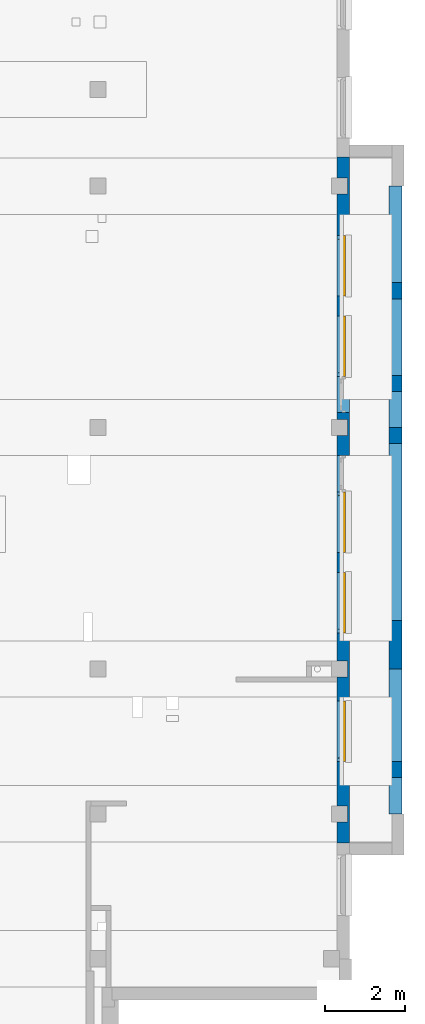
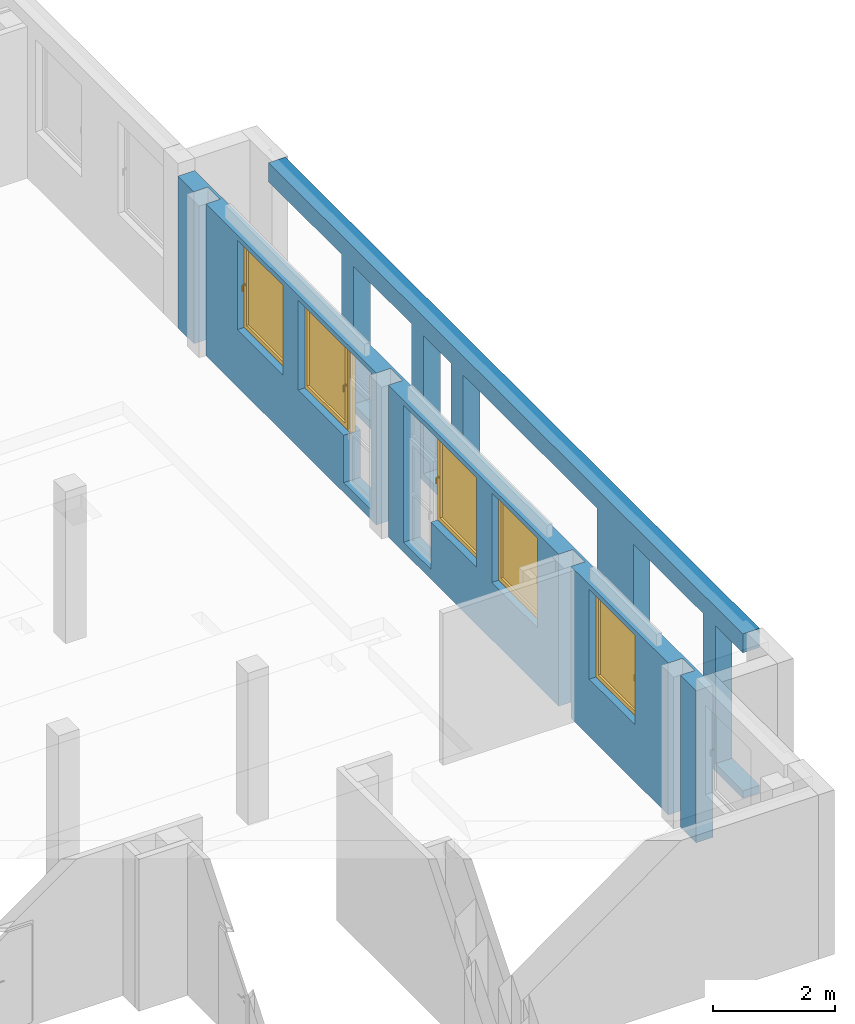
# One storey, part 6 of 27: 5 windows, 2 walls, 13 openings.
"""IFC4 building model written with IfcOpenShell, lengths in metres."""

from ifc_helpers import new_model, entity, si_unit, converted_unit, derived_unit, frame, frame_2d, origin, origin_with_axes, place, context, subcontext, project, spatial, polyline, rectangle, outline, extrude, closed_shell, open_shell, surface_model, source, transform, mapped, material, layer, layer_set, layer_usage, element, fill, save


model = new_model("IFC4")

# Units and contexts
model_context = context("Model", 3, precision=1e-05, world=origin())
body_context = subcontext(model_context, "Body", "Model", "MODEL_VIEW")
ifc_project = project(units=[si_unit("LENGTHUNIT", "METRE"), si_unit("AREAUNIT", "SQUARE_METRE"), si_unit("VOLUMEUNIT", "CUBIC_METRE"), si_unit("MASSUNIT", "GRAM", prefix="KILO"), converted_unit("PLANEANGLEUNIT", "DEGREE", entity("IfcPlaneAngleMeasure", 0.0174532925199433), si_unit("PLANEANGLEUNIT", "RADIAN"), dimensions=[0, 0, 0, 0, 0, 0, 0]), derived_unit("THERMALTRANSMITTANCEUNIT", [(si_unit("POWERUNIT", "WATT"), 1), (si_unit("THERMODYNAMICTEMPERATUREUNIT", "KELVIN"), -1), (si_unit("LENGTHUNIT", "METRE"), -2)]), derived_unit("VOLUMETRICFLOWRATEUNIT", [(si_unit("LENGTHUNIT", "METRE"), 3), (converted_unit("TIMEUNIT", "hour", entity("IfcTimeMeasure", 3600.0), si_unit("TIMEUNIT", "SECOND"), dimensions=[0, 0, 1, 0, 0, 0, 0]), -1), (si_unit("LENGTHUNIT", "METRE"), -1)])], contexts=[model_context])

# Site, building, storey
site_placement = place(None, origin())
site = spatial("IfcSite", under=ifc_project, at=site_placement, Name="3. ASŘ", CompositionType="ELEMENT")
building_placement = place(site_placement, origin())
building = spatial("IfcBuilding", under=site, at=building_placement, Name="Pavilon C", CompositionType="ELEMENT")
storey_placement = place(building_placement, frame((0.0, 0.0, 10.5)))
storey = spatial("IfcBuildingStorey", under=building, at=storey_placement, Name="Půdorys 4.NP", CompositionType="ELEMENT", Elevation=10.5)

# Wall, openings, windows
ifc_material_1 = material(Name="PLYNOSILIKÁT")
ifc_layer_1 = layer(ifc_material_1, 0.32)
ifc_layer_set_1 = layer_set([ifc_layer_1])
ifc_layer_usage_1 = layer_usage(ifc_layer_set_1, "AXIS2", "POSITIVE", 0.0)
wall_1_placement = place(storey_placement, frame((50.2, 2.88, -0.1), z_axis=(0.0, 0.0, 1.0), x_axis=(0.0, 1.0, 0.0)))
wall_1 = element("IfcWall", 1, at=wall_1_placement, inside=storey, material=ifc_layer_usage_1, Name="PLYNOSILIKÁT", context=body_context, shape_type="SweptSolid", body=[
    extrude(outline(polyline([(0.0, -0.32), (17.04, -0.32), (17.04, 0.0), (16.52, 0.0), (16.52, -0.27), (16.12, -0.27), (16.12, 0.0), (10.52, 0.0), (10.52, -0.27), (10.12, -0.27), (10.12, 0.0), (4.52, 0.0), (4.52, -0.27), (4.12, -0.27), (4.12, 0.0), (0.919999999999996, 0.0), (0.919999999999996, -0.27), (0.519999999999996, -0.27), (0.519999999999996, 0.0), (0.0, 0.0), (0.0, -0.32)])), frame((0.0, 0.32, 0.0), z_axis=(0.0, 0.0, 1.0), x_axis=(1.0, 0.0, 0.0)), (0.0, 0.0, 1.0), 3.05),
])
opening_1_placement = place(wall_1_placement, frame((2.02, 0.0, 1.15), z_axis=(0.0, 1.0, 0.0), x_axis=(0.0, 0.0, 1.0)))
opening_1 = element("IfcOpeningElement", 2, at=opening_1_placement, cuts=wall_1, Name="Okenní otvor", ObjectType="Opening", context=body_context, shape_type="SweptSolid", body=[
    extrude(outline(polyline([(0.0, 1.5), (1.8, 1.5), (1.8, 0.0), (0.0, 0.0), (0.0, 1.5)])), origin_with_axes(), (0.0, 0.0, 1.0), 0.32),
])
opening_2_placement = place(wall_1_placement, frame((13.59, 0.0, 1.15), z_axis=(0.0, 1.0, 0.0), x_axis=(0.0, 0.0, 1.0)))
opening_2 = element("IfcOpeningElement", 3, at=opening_2_placement, cuts=wall_1, Name="Okenní otvor", ObjectType="Opening", context=body_context, shape_type="SweptSolid", body=[
    extrude(outline(polyline([(0.0, 1.5), (1.8, 1.5), (1.8, 0.0), (0.0, 0.0), (0.0, 1.5)])), origin_with_axes(), (0.0, 0.0, 1.0), 0.32),
])
opening_3_placement = place(wall_1_placement, frame((10.69, 0.0, 0.2), z_axis=(0.0, 1.0, 0.0), x_axis=(0.0, 0.0, 1.0)))
element("IfcOpeningElement", 4, at=opening_3_placement, cuts=wall_1, Name="Dveřní otvor", ObjectType="Opening", context=body_context, shape_type="SweptSolid", body=[
    extrude(outline(polyline([(0.0, 0.9), (2.75, 0.9), (2.75, 0.0), (0.0, 0.0), (0.0, 0.9)])), origin_with_axes(), (0.0, 0.0, 1.0), 0.32),
])
opening_4_placement = place(wall_1_placement, frame((11.59, 0.0, 1.15), z_axis=(0.0, 1.0, 0.0), x_axis=(0.0, 0.0, 1.0)))
opening_4 = element("IfcOpeningElement", 5, at=opening_4_placement, cuts=wall_1, Name="Okenní otvor", ObjectType="Opening", context=body_context, shape_type="SweptSolid", body=[
    extrude(outline(polyline([(0.0, 1.5), (1.8, 1.5), (1.8, 0.0), (0.0, 0.0), (0.0, 1.5)])), origin_with_axes(), (0.0, 0.0, 1.0), 0.32),
])
opening_5_placement = place(wall_1_placement, frame((7.21999999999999, 0.0, 1.15), z_axis=(0.0, 1.0, 0.0), x_axis=(0.0, 0.0, 1.0)))
opening_5 = element("IfcOpeningElement", 6, at=opening_5_placement, cuts=wall_1, Name="Okenní otvor", ObjectType="Opening", context=body_context, shape_type="SweptSolid", body=[
    extrude(outline(polyline([(0.0, 1.5), (1.8, 1.5), (1.8, 0.0), (0.0, 0.0), (0.0, 1.5)])), origin_with_axes(), (0.0, 0.0, 1.0), 0.32),
])
opening_6_placement = place(wall_1_placement, frame((8.71999999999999, 0.0, 0.2), z_axis=(0.0, 1.0, 0.0), x_axis=(0.0, 0.0, 1.0)))
element("IfcOpeningElement", 7, at=opening_6_placement, cuts=wall_1, Name="Dveřní otvor", ObjectType="Opening", context=body_context, shape_type="SweptSolid", body=[
    extrude(outline(polyline([(0.0, 0.9), (2.75, 0.9), (2.75, 0.0), (0.0, 0.0), (0.0, 0.9)])), origin_with_axes(), (0.0, 0.0, 1.0), 0.32),
])
opening_7_placement = place(wall_1_placement, frame((5.21999999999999, 0.0, 1.15), z_axis=(0.0, 1.0, 0.0), x_axis=(0.0, 0.0, 1.0)))
opening_7 = element("IfcOpeningElement", 8, at=opening_7_placement, cuts=wall_1, Name="Okenní otvor", ObjectType="Opening", context=body_context, shape_type="SweptSolid", body=[
    extrude(outline(polyline([(0.0, 1.5), (1.8, 1.5), (1.8, 0.0), (0.0, 0.0), (0.0, 1.5)])), origin_with_axes(), (0.0, 0.0, 1.0), 0.32),
])
shared_shape_1 = source(origin_with_axes(), body_context, "Body", "SurfaceModel", [
    surface_model("IfcShellBasedSurfaceModel", [(0.0, 0.0920000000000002, 1.8), (0.0, 0.092, -5.63337527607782e-18), (0.08, 0.092, -5.63337527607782e-18), (0.08, 0.0920000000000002, 1.8), (0.0, 0.0, 5.63337527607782e-18), (0.0, 2.27373675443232e-16, 1.8), (0.08, 2.27373675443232e-16, 1.8), (0.08, 0.0, 5.63337527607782e-18)], [closed_shell([[[0, 1, 2, 3]], [[4, 5, 6, 7]], [[1, 0, 5, 4]], [[2, 1, 4, 7]], [[3, 2, 7, 6]], [[0, 3, 6, 5]]], orient=[[False], [False], [False], [False], [False], [False]])]),
    surface_model("IfcShellBasedSurfaceModel", [(1.42, 0.0920000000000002, 1.8), (1.42, 0.092, -5.63337527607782e-18), (1.5, 0.092, -5.63337527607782e-18), (1.5, 0.0920000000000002, 1.8), (1.42, 0.0, 5.63337527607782e-18), (1.42, 2.27373675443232e-16, 1.8), (1.5, 2.27373675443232e-16, 1.8), (1.5, 0.0, 5.63337527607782e-18)], [closed_shell([[[0, 1, 2, 3]], [[4, 5, 6, 7]], [[1, 0, 5, 4]], [[2, 1, 4, 7]], [[3, 2, 7, 6]], [[0, 3, 6, 5]]], orient=[[False], [False], [False], [False], [False], [False]])]),
    surface_model("IfcShellBasedSurfaceModel", [(0.08, 0.092, 0.08), (0.08, 0.092, -5.63337527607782e-18), (1.42, 0.092, -5.63337527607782e-18), (1.42, 0.092, 0.08), (0.08, 0.0, 5.63337527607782e-18), (0.08, 1.4210854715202e-17, 0.08), (1.42, 1.4210854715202e-17, 0.08), (1.42, 0.0, 5.63337527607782e-18)], [closed_shell([[[0, 1, 2, 3]], [[4, 5, 6, 7]], [[1, 0, 5, 4]], [[2, 1, 4, 7]], [[3, 2, 7, 6]], [[0, 3, 6, 5]]], orient=[[False], [False], [False], [False], [False], [False]])]),
    surface_model("IfcShellBasedSurfaceModel", [(0.08, 0.0920000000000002, 1.8), (0.08, 0.0920000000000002, 1.72), (1.42, 0.0920000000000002, 1.72), (1.42, 0.0920000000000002, 1.8), (0.08, 2.1316282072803e-16, 1.72), (0.08, 2.27373675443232e-16, 1.8), (1.42, 2.27373675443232e-16, 1.8), (1.42, 2.1316282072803e-16, 1.72)], [closed_shell([[[0, 1, 2, 3]], [[4, 5, 6, 7]], [[1, 0, 5, 4]], [[2, 1, 4, 7]], [[3, 2, 7, 6]], [[0, 3, 6, 5]]], orient=[[False], [False], [False], [False], [False], [False]])]),
    surface_model("IfcShellBasedSurfaceModel", [(0.05, 0.122, 1.75), (0.05, 0.122, 0.05), (0.13, 0.122, 0.05), (0.13, 0.122, 1.75), (0.05, 0.037, 0.05), (0.05, 0.0370000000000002, 1.75), (0.13, 0.0370000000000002, 1.75), (0.13, 0.037, 0.05)], [closed_shell([[[0, 1, 2, 3]], [[4, 5, 6, 7]], [[1, 0, 5, 4]], [[2, 1, 4, 7]], [[3, 2, 7, 6]], [[0, 3, 6, 5]]], orient=[[False], [False], [False], [False], [False], [False]])]),
    surface_model("IfcShellBasedSurfaceModel", [(1.37, 0.122, 1.75), (1.37, 0.122, 0.05), (1.45, 0.122, 0.05), (1.45, 0.122, 1.75), (1.37, 0.037, 0.05), (1.37, 0.0370000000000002, 1.75), (1.45, 0.0370000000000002, 1.75), (1.45, 0.037, 0.05)], [closed_shell([[[0, 1, 2, 3]], [[4, 5, 6, 7]], [[1, 0, 5, 4]], [[2, 1, 4, 7]], [[3, 2, 7, 6]], [[0, 3, 6, 5]]], orient=[[False], [False], [False], [False], [False], [False]])]),
    surface_model("IfcShellBasedSurfaceModel", [(0.13, 0.122, 0.13), (0.13, 0.122, 0.05), (1.37, 0.122, 0.05), (1.37, 0.122, 0.13), (0.13, 0.037, 0.05), (0.13, 0.037, 0.13), (1.37, 0.037, 0.13), (1.37, 0.037, 0.05)], [closed_shell([[[0, 1, 2, 3]], [[4, 5, 6, 7]], [[1, 0, 5, 4]], [[2, 1, 4, 7]], [[3, 2, 7, 6]], [[0, 3, 6, 5]]], orient=[[False], [False], [False], [False], [False], [False]])]),
    surface_model("IfcShellBasedSurfaceModel", [(0.13, 0.122, 1.75), (0.13, 0.122, 1.67), (1.37, 0.122, 1.67), (1.37, 0.122, 1.75), (0.13, 0.0370000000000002, 1.67), (0.13, 0.0370000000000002, 1.75), (1.37, 0.0370000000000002, 1.75), (1.37, 0.0370000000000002, 1.67)], [closed_shell([[[0, 1, 2, 3]], [[4, 5, 6, 7]], [[1, 0, 5, 4]], [[2, 1, 4, 7]], [[3, 2, 7, 6]], [[0, 3, 6, 5]]], orient=[[False], [False], [False], [False], [False], [False]])]),
    surface_model("IfcShellBasedSurfaceModel", [(1.3975, 0.122, 0.945), (1.4225, 0.122, 0.945), (1.4225, 0.122, 0.905), (1.3975, 0.122, 0.905), (1.3975, 0.132, 0.905), (1.4225, 0.132, 0.905), (1.4225, 0.132, 0.945), (1.3975, 0.132, 0.945)], [closed_shell([[[0, 1, 2, 3]], [[4, 5, 6, 7]], [[3, 4, 7, 0]], [[2, 5, 4, 3]], [[1, 6, 5, 2]], [[0, 7, 6, 1]]], orient=[[False], [False], [False], [False], [False], [False]])]),
    surface_model("IfcShellBasedSurfaceModel", [(1.42, 0.132, 0.925), (1.41866025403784, 0.132, 0.92), (1.415, 0.132, 0.916339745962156), (1.41, 0.132, 0.915), (1.405, 0.132, 0.916339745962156), (1.40133974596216, 0.132, 0.92), (1.4, 0.132, 0.925), (1.40133974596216, 0.132, 0.93), (1.405, 0.132, 0.933660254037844), (1.41, 0.132, 0.935), (1.415, 0.132, 0.933660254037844), (1.41866025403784, 0.132, 0.93), (1.41866025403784, 0.177, 0.93), (1.42, 0.172, 0.925), (1.415, 0.180660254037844, 0.933660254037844), (1.41, 0.182, 0.935), (1.405, 0.180660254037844, 0.933660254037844), (1.40133974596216, 0.177, 0.93), (1.4, 0.172, 0.925), (1.40133974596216, 0.167, 0.92), (1.405, 0.163339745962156, 0.916339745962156), (1.41, 0.162, 0.915), (1.415, 0.163339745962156, 0.916339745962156), (1.41866025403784, 0.167, 0.92), (1.41866025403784, 0.177, 0.81), (1.42, 0.172, 0.81), (1.415, 0.180660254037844, 0.81), (1.41, 0.182, 0.81), (1.405, 0.180660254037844, 0.81), (1.40133974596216, 0.177, 0.81), (1.4, 0.172, 0.81), (1.40133974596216, 0.167, 0.81), (1.405, 0.163339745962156, 0.81), (1.41, 0.162, 0.81), (1.415, 0.163339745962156, 0.81), (1.41866025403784, 0.167, 0.81)], [open_shell([[[0, 1, 2, 3, 4, 5, 6, 7, 8, 9, 10, 11]], [[0, 11, 12, 13]], [[11, 10, 14, 12]], [[10, 9, 15, 14]], [[9, 8, 16, 15]], [[8, 7, 17, 16]], [[7, 6, 18, 17]], [[6, 5, 19, 18]], [[5, 4, 20, 19]], [[4, 3, 21, 20]], [[3, 2, 22, 21]], [[2, 1, 23, 22]], [[1, 0, 13, 23]], [[13, 12, 24, 25]], [[12, 14, 26, 24]], [[14, 15, 27, 26]], [[15, 16, 28, 27]], [[16, 17, 29, 28]], [[17, 18, 30, 29]], [[18, 19, 31, 30]], [[19, 20, 32, 31]], [[20, 21, 33, 32]], [[21, 22, 34, 33]], [[22, 23, 35, 34]], [[23, 13, 25, 35]]], orient=[[False], [False], [False], [False], [False], [False], [False], [False], [False], [False], [False], [False], [False], [False], [False], [False], [False], [False], [False], [False], [False], [False], [False], [False], [False]])]),
    surface_model("IfcShellBasedSurfaceModel", [(0.13, 0.0795, 0.13), (1.37, 0.0795, 0.13), (1.37, 0.0795000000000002, 1.67), (0.13, 0.0795000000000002, 1.67)], [open_shell([[[0, 1, 2, 3]]], orient=[[False]])]),
])
window_1_placement = place(opening_2_placement, frame((0.0, -7.27595761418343e-15, 0.100000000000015), z_axis=(1.0, 0.0, 0.0), x_axis=(0.0, 1.0, -1.22464679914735e-16)))
window_1 = element("IfcWindow", 9, at=window_1_placement, inside=storey, Name="O06", OverallHeight=1.8, OverallWidth=1.5, PartitioningType="USERDEFINED", PredefinedType="WINDOW", context=body_context, shape_type="MappedRepresentation", body=[
    mapped(shared_shape_1, transform((0.0, 0.0, 0.0), x_axis=(1.0, 0.0, 0.0), y_axis=(0.0, 1.0, 0.0), z_axis=(0.0, 0.0, 1.0), scale=1.0)),
])
fill(opening_2, window_1)
window_2_placement = place(opening_5_placement, frame((0.0, -3.63797880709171e-15, 0.100000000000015), z_axis=(1.0, 0.0, 0.0), x_axis=(0.0, 1.0, -1.22464679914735e-16)))
window_2 = element("IfcWindow", 10, at=window_2_placement, inside=storey, Name="O06", OverallHeight=1.8, OverallWidth=1.5, PartitioningType="USERDEFINED", PredefinedType="WINDOW", context=body_context, shape_type="MappedRepresentation", body=[
    mapped(shared_shape_1, transform((0.0, 0.0, 0.0), x_axis=(1.0, 0.0, 0.0), y_axis=(0.0, 1.0, 0.0), z_axis=(0.0, 0.0, 1.0), scale=1.0)),
])
fill(opening_5, window_2)
shared_shape_2 = source(origin_with_axes(), body_context, "Body", "SurfaceModel", [
    surface_model("IfcShellBasedSurfaceModel", [(0.0, 0.0920000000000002, 1.8), (0.0, 0.092, -5.63337527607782e-18), (0.08, 0.092, -5.63337527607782e-18), (0.08, 0.0920000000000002, 1.8), (0.0, 0.0, 5.63337527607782e-18), (0.0, 2.27373675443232e-16, 1.8), (0.08, 2.27373675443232e-16, 1.8), (0.08, 0.0, 5.63337527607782e-18)], [closed_shell([[[0, 1, 2, 3]], [[4, 5, 6, 7]], [[1, 0, 5, 4]], [[2, 1, 4, 7]], [[3, 2, 7, 6]], [[0, 3, 6, 5]]], orient=[[False], [False], [False], [False], [False], [False]])]),
    surface_model("IfcShellBasedSurfaceModel", [(1.42, 0.0920000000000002, 1.8), (1.42, 0.092, -5.63337527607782e-18), (1.5, 0.092, -5.63337527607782e-18), (1.5, 0.0920000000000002, 1.8), (1.42, 0.0, 5.63337527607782e-18), (1.42, 2.27373675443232e-16, 1.8), (1.5, 2.27373675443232e-16, 1.8), (1.5, 0.0, 5.63337527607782e-18)], [closed_shell([[[0, 1, 2, 3]], [[4, 5, 6, 7]], [[1, 0, 5, 4]], [[2, 1, 4, 7]], [[3, 2, 7, 6]], [[0, 3, 6, 5]]], orient=[[False], [False], [False], [False], [False], [False]])]),
    surface_model("IfcShellBasedSurfaceModel", [(0.08, 0.092, 0.08), (0.08, 0.092, -5.63337527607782e-18), (1.42, 0.092, -5.63337527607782e-18), (1.42, 0.092, 0.08), (0.08, 0.0, 5.63337527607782e-18), (0.08, 1.4210854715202e-17, 0.08), (1.42, 1.4210854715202e-17, 0.08), (1.42, 0.0, 5.63337527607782e-18)], [closed_shell([[[0, 1, 2, 3]], [[4, 5, 6, 7]], [[1, 0, 5, 4]], [[2, 1, 4, 7]], [[3, 2, 7, 6]], [[0, 3, 6, 5]]], orient=[[False], [False], [False], [False], [False], [False]])]),
    surface_model("IfcShellBasedSurfaceModel", [(0.08, 0.0920000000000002, 1.8), (0.08, 0.0920000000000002, 1.72), (1.42, 0.0920000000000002, 1.72), (1.42, 0.0920000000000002, 1.8), (0.08, 2.1316282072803e-16, 1.72), (0.08, 2.27373675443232e-16, 1.8), (1.42, 2.27373675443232e-16, 1.8), (1.42, 2.1316282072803e-16, 1.72)], [closed_shell([[[0, 1, 2, 3]], [[4, 5, 6, 7]], [[1, 0, 5, 4]], [[2, 1, 4, 7]], [[3, 2, 7, 6]], [[0, 3, 6, 5]]], orient=[[False], [False], [False], [False], [False], [False]])]),
    surface_model("IfcShellBasedSurfaceModel", [(0.05, 0.122, 1.75), (0.05, 0.122, 0.05), (0.13, 0.122, 0.05), (0.13, 0.122, 1.75), (0.05, 0.037, 0.05), (0.05, 0.0370000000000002, 1.75), (0.13, 0.0370000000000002, 1.75), (0.13, 0.037, 0.05)], [closed_shell([[[0, 1, 2, 3]], [[4, 5, 6, 7]], [[1, 0, 5, 4]], [[2, 1, 4, 7]], [[3, 2, 7, 6]], [[0, 3, 6, 5]]], orient=[[False], [False], [False], [False], [False], [False]])]),
    surface_model("IfcShellBasedSurfaceModel", [(1.37, 0.122, 1.75), (1.37, 0.122, 0.05), (1.45, 0.122, 0.05), (1.45, 0.122, 1.75), (1.37, 0.037, 0.05), (1.37, 0.0370000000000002, 1.75), (1.45, 0.0370000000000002, 1.75), (1.45, 0.037, 0.05)], [closed_shell([[[0, 1, 2, 3]], [[4, 5, 6, 7]], [[1, 0, 5, 4]], [[2, 1, 4, 7]], [[3, 2, 7, 6]], [[0, 3, 6, 5]]], orient=[[False], [False], [False], [False], [False], [False]])]),
    surface_model("IfcShellBasedSurfaceModel", [(0.13, 0.122, 0.13), (0.13, 0.122, 0.05), (1.37, 0.122, 0.05), (1.37, 0.122, 0.13), (0.13, 0.037, 0.05), (0.13, 0.037, 0.13), (1.37, 0.037, 0.13), (1.37, 0.037, 0.05)], [closed_shell([[[0, 1, 2, 3]], [[4, 5, 6, 7]], [[1, 0, 5, 4]], [[2, 1, 4, 7]], [[3, 2, 7, 6]], [[0, 3, 6, 5]]], orient=[[False], [False], [False], [False], [False], [False]])]),
    surface_model("IfcShellBasedSurfaceModel", [(0.13, 0.122, 1.75), (0.13, 0.122, 1.67), (1.37, 0.122, 1.67), (1.37, 0.122, 1.75), (0.13, 0.0370000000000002, 1.67), (0.13, 0.0370000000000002, 1.75), (1.37, 0.0370000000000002, 1.75), (1.37, 0.0370000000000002, 1.67)], [closed_shell([[[0, 1, 2, 3]], [[4, 5, 6, 7]], [[1, 0, 5, 4]], [[2, 1, 4, 7]], [[3, 2, 7, 6]], [[0, 3, 6, 5]]], orient=[[False], [False], [False], [False], [False], [False]])]),
    surface_model("IfcShellBasedSurfaceModel", [(1.3975, 0.122, 0.945), (1.4225, 0.122, 0.945), (1.4225, 0.122, 0.905), (1.3975, 0.122, 0.905), (1.3975, 0.132, 0.905), (1.4225, 0.132, 0.905), (1.4225, 0.132, 0.945), (1.3975, 0.132, 0.945)], [closed_shell([[[0, 1, 2, 3]], [[4, 5, 6, 7]], [[3, 4, 7, 0]], [[2, 5, 4, 3]], [[1, 6, 5, 2]], [[0, 7, 6, 1]]], orient=[[False], [False], [False], [False], [False], [False]])]),
    surface_model("IfcShellBasedSurfaceModel", [(1.42, 0.132, 0.925), (1.41866025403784, 0.132, 0.92), (1.415, 0.132, 0.916339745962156), (1.41, 0.132, 0.915), (1.405, 0.132, 0.916339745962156), (1.40133974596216, 0.132, 0.92), (1.4, 0.132, 0.925), (1.40133974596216, 0.132, 0.93), (1.405, 0.132, 0.933660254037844), (1.41, 0.132, 0.935), (1.415, 0.132, 0.933660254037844), (1.41866025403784, 0.132, 0.93), (1.41866025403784, 0.177, 0.93), (1.42, 0.172, 0.925), (1.415, 0.180660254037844, 0.933660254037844), (1.41, 0.182, 0.935), (1.405, 0.180660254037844, 0.933660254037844), (1.40133974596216, 0.177, 0.93), (1.4, 0.172, 0.925), (1.40133974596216, 0.167, 0.92), (1.405, 0.163339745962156, 0.916339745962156), (1.41, 0.162, 0.915), (1.415, 0.163339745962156, 0.916339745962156), (1.41866025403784, 0.167, 0.92), (1.41866025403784, 0.177, 0.81), (1.42, 0.172, 0.81), (1.415, 0.180660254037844, 0.81), (1.41, 0.182, 0.81), (1.405, 0.180660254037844, 0.81), (1.40133974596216, 0.177, 0.81), (1.4, 0.172, 0.81), (1.40133974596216, 0.167, 0.81), (1.405, 0.163339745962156, 0.81), (1.41, 0.162, 0.81), (1.415, 0.163339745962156, 0.81), (1.41866025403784, 0.167, 0.81)], [open_shell([[[0, 1, 2, 3, 4, 5, 6, 7, 8, 9, 10, 11]], [[0, 11, 12, 13]], [[11, 10, 14, 12]], [[10, 9, 15, 14]], [[9, 8, 16, 15]], [[8, 7, 17, 16]], [[7, 6, 18, 17]], [[6, 5, 19, 18]], [[5, 4, 20, 19]], [[4, 3, 21, 20]], [[3, 2, 22, 21]], [[2, 1, 23, 22]], [[1, 0, 13, 23]], [[13, 12, 24, 25]], [[12, 14, 26, 24]], [[14, 15, 27, 26]], [[15, 16, 28, 27]], [[16, 17, 29, 28]], [[17, 18, 30, 29]], [[18, 19, 31, 30]], [[19, 20, 32, 31]], [[20, 21, 33, 32]], [[21, 22, 34, 33]], [[22, 23, 35, 34]], [[23, 13, 25, 35]]], orient=[[False], [False], [False], [False], [False], [False], [False], [False], [False], [False], [False], [False], [False], [False], [False], [False], [False], [False], [False], [False], [False], [False], [False], [False], [False]])]),
    surface_model("IfcShellBasedSurfaceModel", [(0.13, 0.0795, 0.13), (1.37, 0.0795, 0.13), (1.37, 0.0795000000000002, 1.67), (0.13, 0.0795000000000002, 1.67)], [open_shell([[[0, 1, 2, 3]]], orient=[[False]])]),
])
window_3_placement = place(opening_1_placement, frame((0.0, 1.5, 0.100000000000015), z_axis=(1.0, 0.0, 0.0), x_axis=(0.0, -1.0, 1.22464679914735e-16)))
window_3 = element("IfcWindow", 11, at=window_3_placement, inside=storey, Name="O06", OverallHeight=1.8, OverallWidth=1.5, PartitioningType="USERDEFINED", PredefinedType="WINDOW", context=body_context, shape_type="MappedRepresentation", body=[
    mapped(shared_shape_2, transform((0.0, 0.0, 0.0), x_axis=(1.0, 0.0, 0.0), y_axis=(0.0, -1.0, 0.0), z_axis=(0.0, 0.0, 1.0), scale=1.0)),
])
fill(opening_1, window_3)
window_4_placement = place(opening_4_placement, frame((0.0, 1.5, 0.100000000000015), z_axis=(1.0, 0.0, 0.0), x_axis=(0.0, -1.0, 1.22464679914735e-16)))
window_4 = element("IfcWindow", 12, at=window_4_placement, inside=storey, Name="O06", OverallHeight=1.8, OverallWidth=1.5, PartitioningType="USERDEFINED", PredefinedType="WINDOW", context=body_context, shape_type="MappedRepresentation", body=[
    mapped(shared_shape_2, transform((0.0, 0.0, 0.0), x_axis=(1.0, 0.0, 0.0), y_axis=(0.0, -1.0, 0.0), z_axis=(0.0, 0.0, 1.0), scale=1.0)),
])
fill(opening_4, window_4)
window_5_placement = place(opening_7_placement, frame((0.0, 1.5, 0.100000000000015), z_axis=(1.0, 0.0, 0.0), x_axis=(0.0, -1.0, 1.22464679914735e-16)))
window_5 = element("IfcWindow", 13, at=window_5_placement, inside=storey, Name="O06", OverallHeight=1.8, OverallWidth=1.5, PartitioningType="USERDEFINED", PredefinedType="WINDOW", context=body_context, shape_type="MappedRepresentation", body=[
    mapped(shared_shape_2, transform((0.0, 0.0, 0.0), x_axis=(1.0, 0.0, 0.0), y_axis=(0.0, -1.0, 0.0), z_axis=(0.0, 0.0, 1.0), scale=1.0)),
])
fill(opening_7, window_5)

# Wall, openings
ifc_material_2 = material(Name="PLYNOSILIKÁT")
ifc_layer_2 = layer(ifc_material_2, 0.32)
ifc_layer_set_2 = layer_set([ifc_layer_2])
ifc_layer_usage_2 = layer_usage(ifc_layer_set_2, "AXIS2", "POSITIVE", 0.0)
wall_2_placement = place(storey_placement, frame((51.5, 3.59999999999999, -0.1), z_axis=(0.0, 0.0, 1.0), x_axis=(0.0, 1.0, 0.0)))
wall_2 = element("IfcWall", 14, at=wall_2_placement, inside=storey, material=ifc_layer_usage_2, Name="PLYNOSILIKÁT", context=body_context, shape_type="SweptSolid", body=[
    extrude(rectangle(XDim=15.6, YDim=0.32, at=frame_2d((7.8, 0.16), x_axis=(1.0, 0.0))), origin_with_axes(), (0.0, 0.0, 1.0), 3.3),
])
opening_8_placement = place(wall_2_placement, frame((10.9, 0.0, 0.15), z_axis=(0.0, 1.0, 0.0), x_axis=(0.0, 0.0, 1.0)))
element("IfcOpeningElement", 15, at=opening_8_placement, cuts=wall_2, Name="Okenní otvor", ObjectType="Opening", context=body_context, shape_type="SweptSolid", body=[
    extrude(outline(polyline([(0.0, 1.9), (2.77, 1.9), (2.77, 0.0), (0.0, 0.0), (0.0, 1.9)])), origin_with_axes(), (0.0, 0.0, 1.0), 0.32),
])
opening_9_placement = place(wall_2_placement, frame((9.6, 0.0, 0.15), z_axis=(0.0, 1.0, 0.0), x_axis=(0.0, 0.0, 1.0)))
element("IfcOpeningElement", 16, at=opening_9_placement, cuts=wall_2, Name="Okenní otvor", ObjectType="Opening", context=body_context, shape_type="SweptSolid", body=[
    extrude(outline(polyline([(0.0, 0.9), (2.77, 0.9), (2.77, 0.0), (0.0, 0.0), (0.0, 0.9)])), origin_with_axes(), (0.0, 0.0, 1.0), 0.32),
])
opening_10_placement = place(wall_2_placement, frame((1.3, 0.0, 0.15), z_axis=(0.0, 1.0, 0.0), x_axis=(0.0, 0.0, 1.0)))
element("IfcOpeningElement", 17, at=opening_10_placement, cuts=wall_2, Name="Okenní otvor", ObjectType="Opening", context=body_context, shape_type="SweptSolid", body=[
    extrude(outline(polyline([(0.0, 2.3), (2.77, 2.3), (2.77, 0.0), (0.0, 0.0), (0.0, 2.3)])), origin_with_axes(), (0.0, 0.0, 1.0), 0.32),
])
opening_11_placement = place(wall_2_placement, frame((0.0, 0.0, 0.15), z_axis=(0.0, 1.0, 0.0), x_axis=(0.0, 0.0, 1.0)))
element("IfcOpeningElement", 18, at=opening_11_placement, cuts=wall_2, Name="Okenní otvor", ObjectType="Opening", context=body_context, shape_type="SweptSolid", body=[
    extrude(outline(polyline([(0.0, 0.9), (2.77, 0.9), (2.77, 0.0), (0.0, 0.0), (0.0, 0.9)])), origin_with_axes(), (0.0, 0.0, 1.0), 0.32),
])
opening_12_placement = place(wall_2_placement, frame((4.8, 0.0, 1.07), z_axis=(0.0, 1.0, 0.0), x_axis=(0.0, 0.0, 1.0)))
element("IfcOpeningElement", 19, at=opening_12_placement, cuts=wall_2, Name="Okenní otvor", ObjectType="Opening", context=body_context, shape_type="SweptSolid", body=[
    extrude(outline(polyline([(0.0, 4.4), (1.85, 4.4), (1.85, 0.0), (0.0, 0.0), (0.0, 4.4)])), origin_with_axes(), (0.0, 0.0, 1.0), 0.32),
])
opening_13_placement = place(wall_2_placement, frame((13.2, 0.0, 1.07), z_axis=(0.0, 1.0, 0.0), x_axis=(0.0, 0.0, 1.0)))
element("IfcOpeningElement", 20, at=opening_13_placement, cuts=wall_2, Name="Okenní otvor", ObjectType="Opening", context=body_context, shape_type="SweptSolid", body=[
    extrude(outline(polyline([(0.0, 2.40000000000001), (1.85, 2.40000000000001), (1.85, 0.0), (0.0, 0.0), (0.0, 2.40000000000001)])), origin_with_axes(), (0.0, 0.0, 1.0), 0.32),
])

save(model, "model.ifc")
